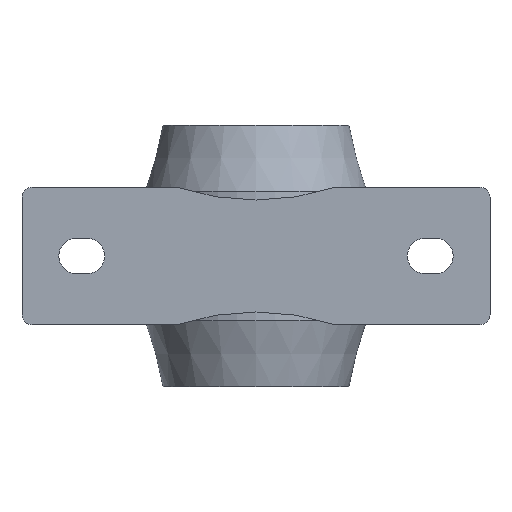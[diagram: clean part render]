
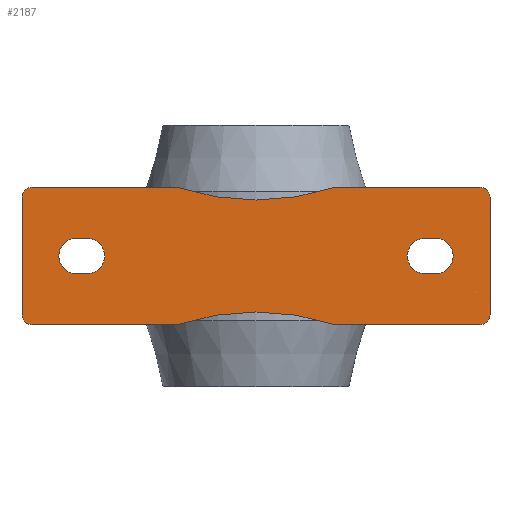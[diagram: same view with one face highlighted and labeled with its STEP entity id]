
A CAD part, front view. The second image highlights one B-rep face of the part: STEP entity #2187.
In plain terms, the highlighted planar face has unit normal (0, -1, 0).
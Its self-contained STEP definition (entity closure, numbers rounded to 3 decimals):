
#102=FACE_BOUND('',#318,.T.);
#103=FACE_BOUND('',#319,.T.);
#128=PLANE('',#2441);
#191=FACE_OUTER_BOUND('',#317,.T.);
#317=EDGE_LOOP('',(#1423,#1424,#1425,#1426,#1427,#1428,#1429,#1430,#1431,
#1432,#1433,#1434));
#318=EDGE_LOOP('',(#1435,#1436,#1437,#1438));
#319=EDGE_LOOP('',(#1439,#1440,#1441,#1442));
#503=LINE('',#3403,#636);
#504=LINE('',#3407,#637);
#505=LINE('',#3411,#638);
#506=LINE('',#3415,#639);
#507=LINE('',#3419,#640);
#508=LINE('',#3422,#641);
#509=LINE('',#3427,#642);
#510=LINE('',#3430,#643);
#511=LINE('',#3435,#644);
#512=LINE('',#3438,#645);
#636=VECTOR('',#2712,10.);
#637=VECTOR('',#2715,10.);
#638=VECTOR('',#2718,10.);
#639=VECTOR('',#2721,10.);
#640=VECTOR('',#2724,10.);
#641=VECTOR('',#2727,10.);
#642=VECTOR('',#2730,10.);
#643=VECTOR('',#2733,10.);
#644=VECTOR('',#2736,10.);
#645=VECTOR('',#2739,10.);
#770=CIRCLE('',#2442,4.);
#771=CIRCLE('',#2443,98.);
#772=CIRCLE('',#2444,4.);
#773=CIRCLE('',#2445,4.);
#774=CIRCLE('',#2446,98.);
#775=CIRCLE('',#2447,4.);
#776=CIRCLE('',#2448,7.);
#777=CIRCLE('',#2449,7.);
#778=CIRCLE('',#2450,7.);
#779=CIRCLE('',#2451,7.);
#891=VERTEX_POINT('',#3399);
#892=VERTEX_POINT('',#3400);
#893=VERTEX_POINT('',#3402);
#894=VERTEX_POINT('',#3404);
#895=VERTEX_POINT('',#3406);
#896=VERTEX_POINT('',#3408);
#897=VERTEX_POINT('',#3410);
#898=VERTEX_POINT('',#3412);
#899=VERTEX_POINT('',#3414);
#900=VERTEX_POINT('',#3416);
#901=VERTEX_POINT('',#3418);
#902=VERTEX_POINT('',#3420);
#903=VERTEX_POINT('',#3423);
#904=VERTEX_POINT('',#3424);
#905=VERTEX_POINT('',#3426);
#906=VERTEX_POINT('',#3428);
#907=VERTEX_POINT('',#3431);
#908=VERTEX_POINT('',#3432);
#909=VERTEX_POINT('',#3434);
#910=VERTEX_POINT('',#3436);
#1106=EDGE_CURVE('',#891,#892,#770,.T.);
#1107=EDGE_CURVE('',#891,#893,#503,.T.);
#1108=EDGE_CURVE('',#893,#894,#771,.T.);
#1109=EDGE_CURVE('',#894,#895,#504,.T.);
#1110=EDGE_CURVE('',#896,#895,#772,.T.);
#1111=EDGE_CURVE('',#896,#897,#505,.T.);
#1112=EDGE_CURVE('',#898,#897,#773,.T.);
#1113=EDGE_CURVE('',#899,#898,#506,.T.);
#1114=EDGE_CURVE('',#899,#900,#774,.T.);
#1115=EDGE_CURVE('',#901,#900,#507,.T.);
#1116=EDGE_CURVE('',#902,#901,#775,.T.);
#1117=EDGE_CURVE('',#902,#892,#508,.T.);
#1118=EDGE_CURVE('',#903,#904,#776,.T.);
#1119=EDGE_CURVE('',#904,#905,#509,.T.);
#1120=EDGE_CURVE('',#905,#906,#777,.T.);
#1121=EDGE_CURVE('',#906,#903,#510,.T.);
#1122=EDGE_CURVE('',#907,#908,#778,.T.);
#1123=EDGE_CURVE('',#908,#909,#511,.T.);
#1124=EDGE_CURVE('',#909,#910,#779,.T.);
#1125=EDGE_CURVE('',#910,#907,#512,.T.);
#1423=ORIENTED_EDGE('',*,*,#1106,.F.);
#1424=ORIENTED_EDGE('',*,*,#1107,.T.);
#1425=ORIENTED_EDGE('',*,*,#1108,.T.);
#1426=ORIENTED_EDGE('',*,*,#1109,.T.);
#1427=ORIENTED_EDGE('',*,*,#1110,.F.);
#1428=ORIENTED_EDGE('',*,*,#1111,.T.);
#1429=ORIENTED_EDGE('',*,*,#1112,.F.);
#1430=ORIENTED_EDGE('',*,*,#1113,.F.);
#1431=ORIENTED_EDGE('',*,*,#1114,.T.);
#1432=ORIENTED_EDGE('',*,*,#1115,.F.);
#1433=ORIENTED_EDGE('',*,*,#1116,.F.);
#1434=ORIENTED_EDGE('',*,*,#1117,.T.);
#1435=ORIENTED_EDGE('',*,*,#1118,.T.);
#1436=ORIENTED_EDGE('',*,*,#1119,.T.);
#1437=ORIENTED_EDGE('',*,*,#1120,.T.);
#1438=ORIENTED_EDGE('',*,*,#1121,.T.);
#1439=ORIENTED_EDGE('',*,*,#1122,.T.);
#1440=ORIENTED_EDGE('',*,*,#1123,.T.);
#1441=ORIENTED_EDGE('',*,*,#1124,.T.);
#1442=ORIENTED_EDGE('',*,*,#1125,.T.);
#2187=ADVANCED_FACE('',(#191,#102,#103),#128,.F.);
#2441=AXIS2_PLACEMENT_3D('',#3398,#2708,#2709);
#2442=AXIS2_PLACEMENT_3D('',#3401,#2710,#2711);
#2443=AXIS2_PLACEMENT_3D('',#3405,#2713,#2714);
#2444=AXIS2_PLACEMENT_3D('',#3409,#2716,#2717);
#2445=AXIS2_PLACEMENT_3D('',#3413,#2719,#2720);
#2446=AXIS2_PLACEMENT_3D('',#3417,#2722,#2723);
#2447=AXIS2_PLACEMENT_3D('',#3421,#2725,#2726);
#2448=AXIS2_PLACEMENT_3D('',#3425,#2728,#2729);
#2449=AXIS2_PLACEMENT_3D('',#3429,#2731,#2732);
#2450=AXIS2_PLACEMENT_3D('',#3433,#2734,#2735);
#2451=AXIS2_PLACEMENT_3D('',#3437,#2737,#2738);
#2708=DIRECTION('center_axis',(0.,1.,0.));
#2709=DIRECTION('ref_axis',(0.,0.,1.));
#2710=DIRECTION('center_axis',(0.,1.,0.));
#2711=DIRECTION('ref_axis',(-0.707,0.,-0.707));
#2712=DIRECTION('',(1.,0.,0.));
#2713=DIRECTION('center_axis',(0.,1.,0.));
#2714=DIRECTION('ref_axis',(1.,0.,0.));
#2715=DIRECTION('',(1.,0.,0.));
#2716=DIRECTION('center_axis',(0.,1.,0.));
#2717=DIRECTION('ref_axis',(0.707,0.,-0.707));
#2718=DIRECTION('',(0.,0.,1.));
#2719=DIRECTION('center_axis',(0.,1.,0.));
#2720=DIRECTION('ref_axis',(0.707,0.,0.707));
#2721=DIRECTION('',(1.,0.,0.));
#2722=DIRECTION('center_axis',(0.,1.,0.));
#2723=DIRECTION('ref_axis',(1.,0.,0.));
#2724=DIRECTION('',(1.,0.,0.));
#2725=DIRECTION('center_axis',(0.,1.,0.));
#2726=DIRECTION('ref_axis',(-0.707,0.,0.707));
#2727=DIRECTION('',(0.,0.,-1.));
#2728=DIRECTION('center_axis',(0.,1.,0.));
#2729=DIRECTION('ref_axis',(0.,0.,1.));
#2730=DIRECTION('',(1.,0.,0.));
#2731=DIRECTION('center_axis',(0.,1.,0.));
#2732=DIRECTION('ref_axis',(0.,0.,-1.));
#2733=DIRECTION('',(-1.,0.,0.));
#2734=DIRECTION('center_axis',(0.,1.,0.));
#2735=DIRECTION('ref_axis',(0.,0.,1.));
#2736=DIRECTION('',(-1.,0.,0.));
#2737=DIRECTION('center_axis',(0.,1.,0.));
#2738=DIRECTION('ref_axis',(0.,0.,-1.));
#2739=DIRECTION('',(1.,0.,0.));
#3398=CARTESIAN_POINT('Origin',(-48.8,-49.2,0.));
#3399=CARTESIAN_POINT('',(-88.,-49.2,-27.));
#3400=CARTESIAN_POINT('',(-92.,-49.2,-23.));
#3401=CARTESIAN_POINT('Origin',(-88.,-49.2,-23.));
#3402=CARTESIAN_POINT('',(-30.903,-49.2,-27.));
#3403=CARTESIAN_POINT('',(-92.,-49.2,-27.));
#3404=CARTESIAN_POINT('',(30.903,-49.2,-27.));
#3405=CARTESIAN_POINT('Origin',(0.,-49.2,-120.));
#3406=CARTESIAN_POINT('',(88.,-49.2,-27.));
#3407=CARTESIAN_POINT('',(-92.,-49.2,-27.));
#3408=CARTESIAN_POINT('',(92.,-49.2,-23.));
#3409=CARTESIAN_POINT('Origin',(88.,-49.2,-23.));
#3410=CARTESIAN_POINT('',(92.,-49.2,23.));
#3411=CARTESIAN_POINT('',(92.,-49.2,0.));
#3412=CARTESIAN_POINT('',(88.,-49.2,27.));
#3413=CARTESIAN_POINT('Origin',(88.,-49.2,23.));
#3414=CARTESIAN_POINT('',(30.903,-49.2,27.));
#3415=CARTESIAN_POINT('',(-10.,-49.2,27.));
#3416=CARTESIAN_POINT('',(-30.903,-49.2,27.));
#3417=CARTESIAN_POINT('Origin',(0.,-49.2,120.));
#3418=CARTESIAN_POINT('',(-88.,-49.2,27.));
#3419=CARTESIAN_POINT('',(-10.,-49.2,27.));
#3420=CARTESIAN_POINT('',(-92.,-49.2,23.));
#3421=CARTESIAN_POINT('Origin',(-88.,-49.2,23.));
#3422=CARTESIAN_POINT('',(-92.,-49.2,0.));
#3423=CARTESIAN_POINT('',(66.5,-49.2,-7.));
#3424=CARTESIAN_POINT('',(66.5,-49.2,7.));
#3425=CARTESIAN_POINT('Origin',(66.5,-49.2,0.));
#3426=CARTESIAN_POINT('',(70.5,-49.2,7.));
#3427=CARTESIAN_POINT('',(10.85,-49.2,7.));
#3428=CARTESIAN_POINT('',(70.5,-49.2,-7.));
#3429=CARTESIAN_POINT('Origin',(70.5,-49.2,0.));
#3430=CARTESIAN_POINT('',(8.85,-49.2,-7.));
#3431=CARTESIAN_POINT('',(-66.5,-49.2,7.));
#3432=CARTESIAN_POINT('',(-66.5,-49.2,-7.));
#3433=CARTESIAN_POINT('Origin',(-66.5,-49.2,0.));
#3434=CARTESIAN_POINT('',(-70.5,-49.2,-7.));
#3435=CARTESIAN_POINT('',(-59.65,-49.2,-7.));
#3436=CARTESIAN_POINT('',(-70.5,-49.2,7.));
#3437=CARTESIAN_POINT('Origin',(-70.5,-49.2,0.));
#3438=CARTESIAN_POINT('',(-57.65,-49.2,7.));
